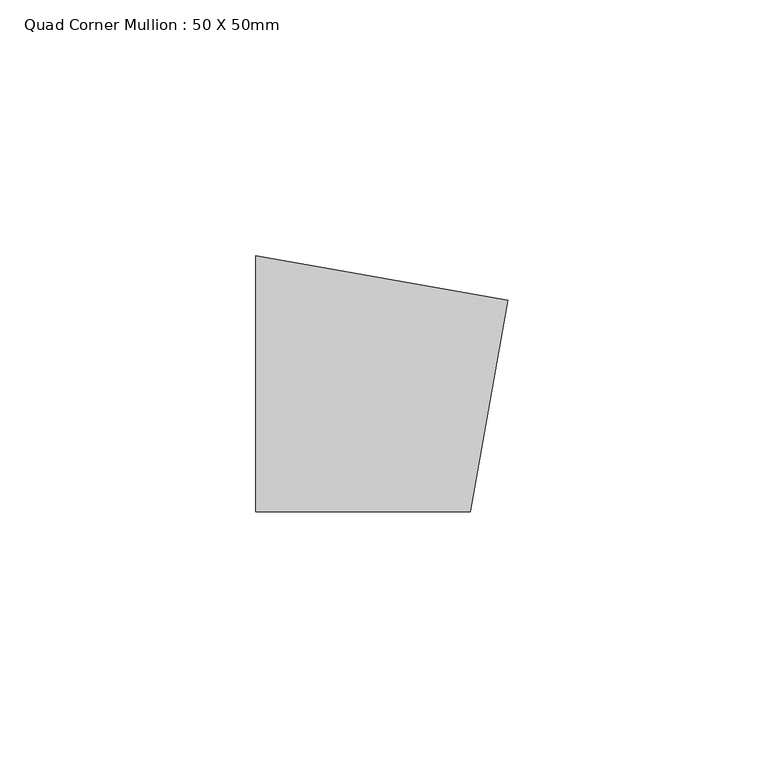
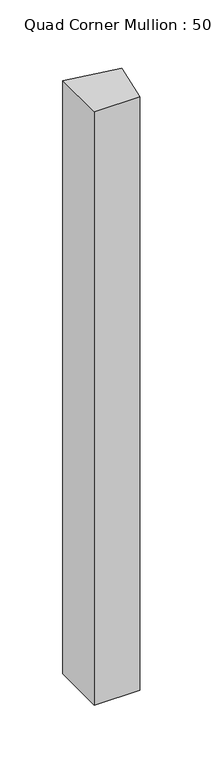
"""IFC4 building model written with IfcOpenShell, lengths in millimetres: member geometry, Quad Corner Mullion : 50 X 50mm."""

from ifc_helpers import new_model, si_unit, frame, origin, place, context, project, spatial, polyline, outline, extrude, source, transform, mapped, element, save


def quad_corner_mullion_50_x_50mm_5e785851(model_context):
    return source(origin(), model_context, "Body", "SweptSolid", [
        extrude(outline(polyline([(28.2628969, 16.3175911), (20.9774908, -25.0), (-20.9774908, -25.0), (-20.9774908, 25.0), (28.2628969, 16.3175911)])), frame((0.0, 0.0, -576.1224123), z_axis=(0.0, 0.0, 1.0), x_axis=(1.0, 0.0, 0.0)), (0.0, 0.0, 1.0), 576.1224123),
    ])


if __name__ == "__main__":
    model = new_model("IFC4")
    model_context = context("Model", 3, world=origin())
    ifc_project = project(units=[si_unit("LENGTHUNIT", "METRE", prefix="MILLI")], contexts=[model_context])
    site = spatial("IfcSite", under=ifc_project)
    building = spatial("IfcBuilding", under=site)
    placement = place(None, origin())
    quad_corner_mullion_50_x_50mm_shape = quad_corner_mullion_50_x_50mm_5e785851(model_context)
    element("IfcMember", 1, ObjectType="Quad Corner Mullion : 50 X 50mm", at=placement, inside=building, context=model_context, shape_type="MappedRepresentation", body=[
        mapped(quad_corner_mullion_50_x_50mm_shape, transform((0.0, 0.0, 0.0), x_axis=(1.0, 0.0, 0.0), y_axis=(0.0, 1.0, 0.0), z_axis=(0.0, 0.0, 1.0))),
    ])
    save(model, "model.ifc")
